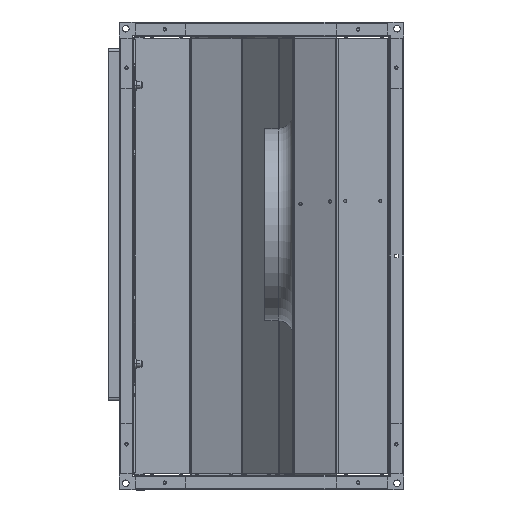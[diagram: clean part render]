
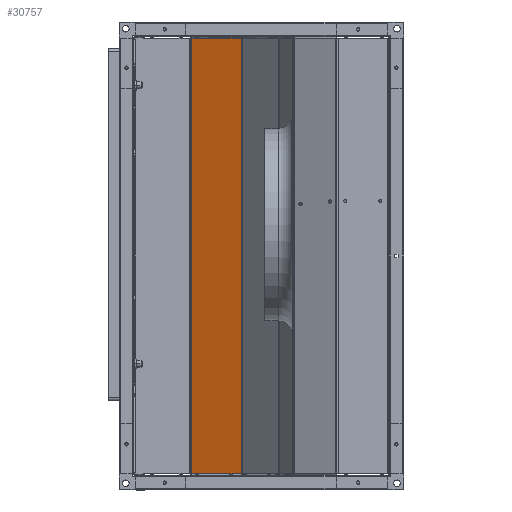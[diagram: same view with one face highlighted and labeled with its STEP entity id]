
A CAD part, left-side view. The second image highlights one B-rep face of the part: STEP entity #30757.
In plain terms, the highlighted planar face has unit normal (0.932, -0.362, 0).
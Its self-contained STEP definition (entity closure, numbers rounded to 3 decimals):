
#986 = CARTESIAN_POINT ( 'NONE',  ( 293.16, 271.243, 296.7 ) ) ;
#989 = DIRECTION ( 'NONE',  ( -0.362, -0.932, 0. ) ) ;
#1630 = CARTESIAN_POINT ( 'NONE',  ( 292.977, 270.772, 299. ) ) ;
#1635 = DIRECTION ( 'NONE',  ( 0., 0., -1. ) ) ;
#3647 = CARTESIAN_POINT ( 'NONE',  ( 266.036, 201.383, 299. ) ) ;
#3652 = PLANE ( 'NONE',  #29355 ) ;
#10434 = FACE_OUTER_BOUND ( 'NONE', #11239, .T. ) ;
#11239 = EDGE_LOOP ( 'NONE', ( #21200, #21201, #21206, #21204 ) ) ;
#14368 = CARTESIAN_POINT ( 'NONE',  ( 292.977, 270.772, -296.7 ) ) ;
#14374 = CARTESIAN_POINT ( 'NONE',  ( 292.977, 270.772, 296.7 ) ) ;
#14452 = CARTESIAN_POINT ( 'NONE',  ( 266.505, 202.592, 296.7 ) ) ;
#14533 = CARTESIAN_POINT ( 'NONE',  ( 266.505, 202.592, -296.7 ) ) ;
#14898 = DIRECTION ( 'NONE',  ( -0.932, 0.362, 0. ) ) ;
#16879 = DIRECTION ( 'NONE',  ( -0.362, -0.932, 0. ) ) ;
#19209 = VERTEX_POINT ( 'NONE', #14368 ) ;
#19213 = VERTEX_POINT ( 'NONE', #14374 ) ;
#19260 = VERTEX_POINT ( 'NONE', #14452 ) ;
#19309 = VERTEX_POINT ( 'NONE', #14533 ) ;
#21200 = ORIENTED_EDGE ( 'NONE', *, *, #33826, .T. ) ;
#21201 = ORIENTED_EDGE ( 'NONE', *, *, #34310, .F. ) ;
#21204 = ORIENTED_EDGE ( 'NONE', *, *, #33835, .T. ) ;
#21206 = ORIENTED_EDGE ( 'NONE', *, *, #34242, .T. ) ;
#24791 = LINE ( 'NONE', #27602, #24795 ) ;
#24795 = VECTOR ( 'NONE', #27608, 1000. ) ;
#24805 = LINE ( 'NONE', #27621, #24810 ) ;
#24810 = VECTOR ( 'NONE', #27627, 1000. ) ;
#25410 = LINE ( 'NONE', #986, #25413 ) ;
#25413 = VECTOR ( 'NONE', #989, 1000. ) ;
#25507 = LINE ( 'NONE', #1630, #25512 ) ;
#25512 = VECTOR ( 'NONE', #1635, 1000. ) ;
#27602 = CARTESIAN_POINT ( 'NONE',  ( 266.335, 202.153, -296.7 ) ) ;
#27608 = DIRECTION ( 'NONE',  ( 0.362, 0.932, 0. ) ) ;
#27621 = CARTESIAN_POINT ( 'NONE',  ( 266.505, 202.592, 299. ) ) ;
#27627 = DIRECTION ( 'NONE',  ( 0., 0., -1. ) ) ;
#29355 = AXIS2_PLACEMENT_3D ( 'NONE', #3647, #14898, #16879 ) ;
#30757 = ADVANCED_FACE ( 'NONE', ( #10434 ), #3652, .F. ) ;
#33826 = EDGE_CURVE ( 'NONE', #19309, #19209, #24791, .T. ) ;
#33835 = EDGE_CURVE ( 'NONE', #19260, #19309, #24805, .T. ) ;
#34242 = EDGE_CURVE ( 'NONE', #19213, #19260, #25410, .T. ) ;
#34310 = EDGE_CURVE ( 'NONE', #19213, #19209, #25507, .T. ) ;
